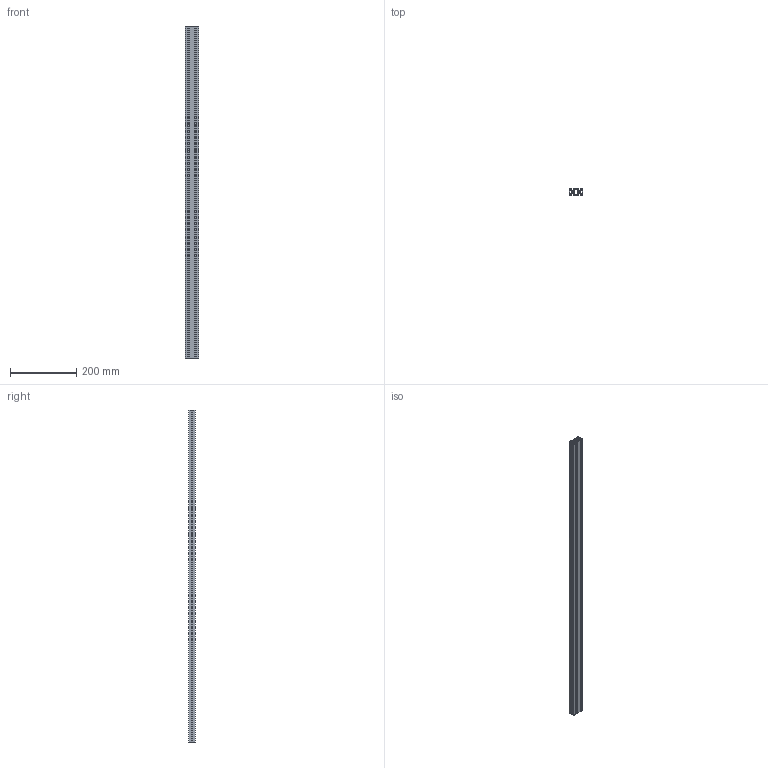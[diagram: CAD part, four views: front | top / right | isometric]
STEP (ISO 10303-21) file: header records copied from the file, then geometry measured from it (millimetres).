
FILE_DESCRIPTION((''),'2;1');
FILE_NAME('\\Dtp_2\share\iriguchi2\M4フレーム\AFS-2040-4.stp','2014-11-25T15:52:39',('AMS8'),(''),'Autodesk Inventor 2008','Autodesk Inventor 2008','');
FILE_SCHEMA(('AUTOMOTIVE_DESIGN { 1 0 10303 214 1 1 1 1 }'));
Length unit declared in the file: millimetre
Products named in the file (1): Part26
Bounding box: 40 x 20 x 1000 mm (x, y, z)
Volume: 278481.9 mm3; surface area: 362022.2 mm2
Topology: 1 solids, 1 shells, 182 faces, 540 edges, 360 vertices
Faces by surface type: cylinder 94, plane 88
Full cylindrical faces by diameter (mm): 4 x4
Entity records: 6178 total; most frequent: DIRECTION 1090, CARTESIAN_POINT 1079, ORIENTED_EDGE 1072, EDGE_CURVE 536, AXIS2_PLACEMENT_3D 371, VERTEX_POINT 360, VECTOR 348, LINE 348
